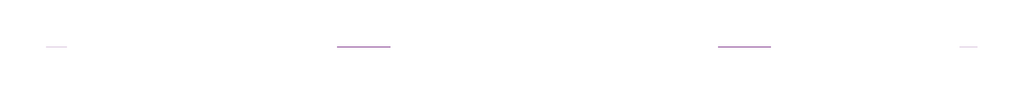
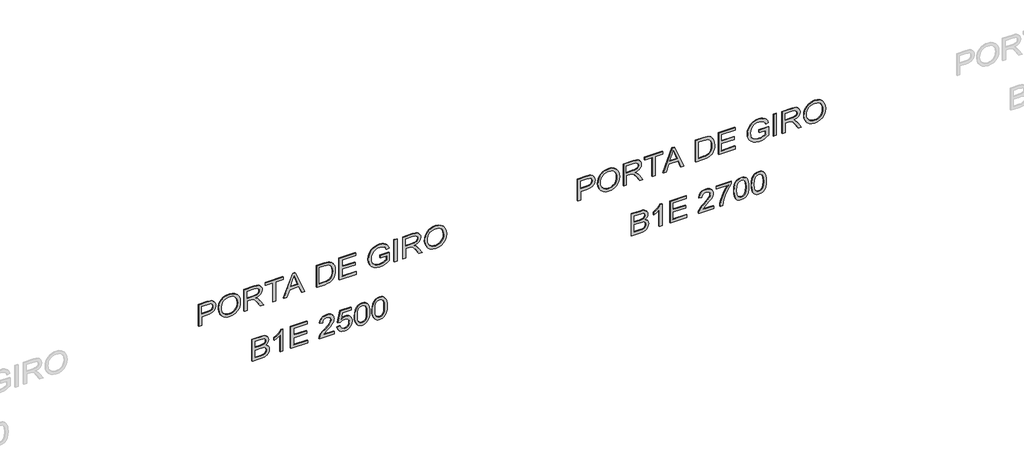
# One storey, part 2 of 13: 2 proxies.
"""IFC4 building model written with IfcOpenShell, lengths in millimetres."""

from ifc_helpers import new_model, si_unit, frame, origin, place, context, project, spatial, polyline, outline, extrude, element, save

model = new_model("IFC4")

# Units and contexts
model_context = context("Model", 3, world=origin())
ifc_project = project(units=[si_unit("LENGTHUNIT", "METRE", prefix="MILLI")], contexts=[model_context])

# Site, building, storey
site = spatial("IfcSite", under=ifc_project)
building = spatial("IfcBuilding", under=site)
storey = spatial("IfcBuildingStorey", under=building, Name="02 - Marelli - Planta Baixa - Portas", Elevation=-12000.0)

# Proxies
placement = place(None, origin())
element("IfcBuildingElementProxy", 1, Name="300mm Arial", ObjectType="300mm Arial", at=placement, inside=storey, context=model_context, shape_type="SweptSolid", body=[
    extrude(outline(polyline([(-6049.0625952, 2248.0968395), (-6049.0625952, 2285.7679558), (-5926.6314672, 2285.7679558), (-5926.6314672, 2362.3609872), (-5924.9668012, 2391.5593213), (-5919.9728031, 2415.8786204), (-5911.6494729, 2435.3188846), (-5899.9968107, 2449.8801138), (-5885.93912, 2460.4866116), (-5870.4007042, 2468.0626814), (-5853.3815634, 2472.6083233), (-5834.8816976, 2474.1235373), (-5813.4249802, 2471.8794571), (-5793.7892787, 2465.1472166), (-5777.1426184, 2454.7269591), (-5764.6530247, 2441.4188279), (-5755.9250244, 2424.8917293), (-5750.5631443, 2404.8145694), (-5747.6936647, 2359.7858132), (-5747.6936647, 2248.0968395), (-6049.0625952, 2248.0968395)]), holes=[polyline([(-5888.9603509, 2285.7679558), (-5785.364781, 2285.7679558), (-5785.364781, 2363.6853623), (-5787.939955, 2401.3564786), (-5794.2675253, 2415.5843148), (-5805.0096796, 2426.7771245), (-5819.283501, 2434.0335969), (-5836.2060728, 2436.452421), (-5858.4813276, 2432.3505367), (-5875.1279879, 2420.044884), (-5885.5022601, 2397.9719643), (-5888.9603509, 2364.5682791), (-5888.9603509, 2285.7679558)])]), frame((0.0, 8778.3159498, 0.0), z_axis=(0.0, 1.0, 0.0), x_axis=(0.0, 0.0, 1.0)), (0.0, 0.0, 1.0), 10.0),
    extrude(outline(polyline([(-5902.3512555, 2511.7946536), (-5940.8960916, 2516.0988729), (-5977.3623943, 2529.011531), (-6009.0554282, 2550.2751103), (-6033.2804576, 2579.6320935), (-6048.6487279, 2615.2798588), (-6053.7714847, 2655.4157845), (-6049.1361716, 2693.2248566), (-6035.2302322, 2728.3667842), (-6012.3111839, 2758.3307727), (-5980.6365441, 2780.6060275), (-5942.1744815, 2794.4291934), (-5898.8931648, 2799.0369154), (-5856.1820651, 2794.6591197), (-5818.2534314, 2781.5257325), (-5786.6339739, 2760.0414239), (-5762.8504029, 2730.6108643), (-5747.9511821, 2695.1654341), (-5742.9847752, 2655.6365137), (-5745.628927, 2625.3460299), (-5753.5613826, 2597.971011), (-5766.7821418, 2573.5114568), (-5785.2912046, 2551.9673675), (-5808.4723689, 2534.3918051), (-5835.7094321, 2521.8378321), (-5867.0023943, 2514.3054482), (-5902.3512555, 2511.7946536)]), holes=[polyline([(-5902.7191375, 2549.4657699), (-5872.1826326, 2551.4293401), (-5846.3504188, 2557.3200505), (-5825.222496, 2567.1379012), (-5808.7988641, 2580.8828923), (-5796.4863136, 2597.3502101), (-5787.6916347, 2615.3350411), (-5782.4148273, 2634.8373854), (-5780.6558915, 2655.8572429), (-5784.3071203, 2685.0210881), (-5795.2608067, 2711.1499068), (-5812.8547631, 2732.8089592), (-5836.426802, 2748.5635057), (-5865.2503563, 2758.1652258), (-5898.5988592, 2761.3657991), (-5925.1369466, 2759.4964987), (-5948.4652636, 2753.8885976), (-5968.5838102, 2744.5420956), (-5985.4925864, 2731.4569929), (-5998.883491, 2715.4748195), (-6008.4484229, 2697.4371054), (-6014.187382, 2677.3438507), (-6016.1003684, 2655.1950553), (-6014.2057761, 2633.4187405), (-6008.5219993, 2613.5600105), (-5999.0490379, 2595.6188655), (-5985.786892, 2579.5953053), (-5969.2276037, 2566.4136336), (-5949.8632152, 2556.9981538), (-5927.6937264, 2551.3488659), (-5902.7191375, 2549.4657699)])]), frame((0.0, 8778.3159498, 0.0), z_axis=(0.0, 1.0, 0.0), x_axis=(0.0, 0.0, 1.0)), (0.0, 0.0, 1.0), 10.0),
    extrude(outline(polyline([(-6049.0625952, 2850.8347003), (-6049.0625952, 2888.5058167), (-5917.2136881, 2888.5058167), (-5917.2136881, 2933.9760313), (-5918.5380633, 2955.8282218), (-5925.7117622, 2973.7440749), (-5945.2462961, 2993.6464909), (-5986.5962324, 3021.9734045), (-6049.0625952, 3061.1896252), (-6049.0625952, 3104.9675826), (-5967.3927923, 3054.7149021), (-5928.61803, 3024.1806965), (-5912.5047986, 3002.7699644), (-5902.5168024, 3039.8800606), (-5894.5015734, 3054.2619474), (-5884.4721905, 3065.8617265), (-5859.8608851, 3081.1748146), (-5830.1728081, 3086.2791773), (-5806.3064636, 3083.1981656), (-5784.5922289, 3073.9551304), (-5767.0810459, 3059.5525503), (-5755.8238568, 3040.9929037), (-5749.7262128, 3015.5998489), (-5747.6936647, 2980.6970446), (-5747.6936647, 2850.8347003), (-6049.0625952, 2850.8347003)]), holes=[polyline([(-5879.5425718, 2888.5058167), (-5785.364781, 2888.5058167), (-5785.364781, 2982.3157254), (-5788.6205367, 3012.1233641), (-5798.3878037, 3032.6787706), (-5813.195054, 3044.6257384), (-5831.5707596, 3048.608061), (-5844.8788908, 3046.5203306), (-5857.1385583, 3040.2571397), (-5867.2737073, 3029.9748379), (-5874.2082829, 3015.8297752), (-5878.2089996, 2997.0402023), (-5879.5425718, 2972.82437), (-5879.5425718, 2888.5058167)])]), frame((0.0, 8778.3159498, 0.0), z_axis=(0.0, 1.0, 0.0), x_axis=(0.0, 0.0, 1.0)), (0.0, 0.0, 1.0), 10.0),
    extrude(outline(polyline([(-6049.0625952, 3227.5458634), (-6049.0625952, 3265.2169797), (-5785.364781, 3265.2169797), (-5785.364781, 3364.10366), (-5747.6936647, 3364.10366), (-5747.6936647, 3128.6591831), (-5785.364781, 3128.6591831), (-5785.364781, 3227.5458634), (-6049.0625952, 3227.5458634)])), frame((0.0, 8778.3159498, 0.0), z_axis=(0.0, 1.0, 0.0), x_axis=(0.0, 0.0, 1.0)), (0.0, 0.0, 1.0), 10.0),
    extrude(outline(polyline([(-6049.0625952, 3371.3877235), (-6049.0625952, 3411.1925554), (-5954.8848044, 3445.6263102), (-5954.8848044, 3569.7496953), (-6049.0625952, 3604.2570265), (-6049.0625952, 3644.0618583), (-5747.6936647, 3523.7644459), (-5747.6936647, 3491.6851359), (-6049.0625952, 3371.3877235)]), holes=[polyline([(-5917.2136881, 3459.4586732), (-5836.6475312, 3488.9628092), (-5785.364781, 3507.7247909), (-5843.1222543, 3528.8412175), (-5917.2136881, 3555.9909087), (-5917.2136881, 3459.4586732)])]), frame((0.0, 8778.3159498, 0.0), z_axis=(0.0, 1.0, 0.0), x_axis=(0.0, 0.0, 1.0)), (0.0, 0.0, 1.0), 10.0),
    extrude(outline(polyline([(-6049.0625952, 3802.0303871), (-6049.0625952, 3910.9970341), (-6043.9122473, 3959.4470928), (-6037.5570858, 3978.9908238), (-6028.7922972, 3995.4627401), (-6016.9740882, 4009.810138), (-6001.458665, 4022.9803134), (-5981.8045694, 4034.4214434), (-5957.570343, 4043.5817051), (-5929.1054736, 4049.5965757), (-5896.7594492, 4051.6015326), (-5858.6836627, 4048.6400825), (-5825.0960365, 4039.7557324), (-5796.5483937, 4024.9116939), (-5773.5925572, 4004.0711788), (-5760.4039877, 3983.8008809), (-5752.0346723, 3959.7781866), (-5747.6936647, 3905.9938389), (-5747.6936647, 3802.0303871), (-6049.0625952, 3802.0303871)]), holes=[polyline([(-6011.3914789, 3839.7015034), (-5785.364781, 3839.7015034), (-5785.364781, 3905.3316513), (-5786.8730972, 3937.0798675), (-5791.3980458, 3958.748117), (-5803.97961, 3980.0392875), (-5824.8017309, 3997.8539731), (-5855.1152073, 4009.9113055), (-5896.170838, 4013.9304163), (-5927.155699, 4011.8794742), (-5953.155759, 4005.7266478), (-5974.2629885, 3995.8950015), (-5990.5693579, 3982.8075995), (-5999.3801317, 3970.6307055), (-6005.9468253, 3954.8485679), (-6010.0303155, 3933.9344764), (-6011.3914789, 3906.3617209), (-6011.3914789, 3839.7015034)])]), frame((0.0, 8778.3159498, 0.0), z_axis=(0.0, 1.0, 0.0), x_axis=(0.0, 0.0, 1.0)), (0.0, 0.0, 1.0), 10.0),
    extrude(outline(polyline([(-6049.0625952, 4103.3993175), (-6049.0625952, 4324.7171258), (-6011.3914789, 4324.7171258), (-6011.3914789, 4141.0704338), (-5912.5047986, 4141.0704338), (-5912.5047986, 4310.5904572), (-5874.8336823, 4310.5904572), (-5874.8336823, 4141.0704338), (-5785.364781, 4141.0704338), (-5785.364781, 4320.0082363), (-5747.6936647, 4320.0082363), (-5747.6936647, 4103.3993175), (-6049.0625952, 4103.3993175)])), frame((0.0, 8778.3159498, 0.0), z_axis=(0.0, 1.0, 0.0), x_axis=(0.0, 0.0, 1.0)), (0.0, 0.0, 1.0), 10.0),
    extrude(outline(polyline([(-5931.3403567, 4640.2127249), (-5931.3403567, 4724.9727366), (-5985.786892, 4724.9727366), (-5996.4278787, 4708.9238845), (-6006.4250719, 4686.8233737), (-6013.6815443, 4661.3751367), (-6016.1003684, 4635.2831062), (-6012.890598, 4605.7329849), (-6003.2612868, 4577.8567267), (-5987.0192967, 4554.0363675), (-5963.9714897, 4536.6539432), (-5934.3293979, 4526.0313506), (-5898.3045536, 4522.4904864), (-5867.586407, 4525.4335424), (-5839.1491287, 4534.2627103), (-5810.1232393, 4553.6500914), (-5798.1854686, 4568.0894597), (-5788.7860836, 4586.4651654), (-5782.6884395, 4608.694435), (-5780.6558915, 4634.694495), (-5782.5412867, 4656.9053704), (-5788.1974724, 4677.0377126), (-5796.9898521, 4693.9234962), (-5808.2838293, 4706.3946958), (-5823.2658236, 4715.8216719), (-5843.1222543, 4723.574785), (-5833.3365932, 4758.3028453), (-5805.4971232, 4748.7103223), (-5783.4885829, 4735.5309498), (-5766.4924347, 4717.7162642), (-5753.6901413, 4694.2178018), (-5745.6611167, 4666.3139524), (-5742.9847752, 4635.2831062), (-5747.6016942, 4593.0134649), (-5761.4524514, 4555.967748), (-5784.803761, 4525.553104), (-5817.9223376, 4503.1766817), (-5857.4052727, 4489.408698), (-5899.8496579, 4484.8193701), (-5941.9905405, 4489.4270921), (-5979.9743565, 4503.2502581), (-6011.6397992, 4526.1141241), (-6034.825562, 4557.8439462), (-6049.035004, 4596.0392943), (-6053.7714847, 4638.2997385), (-6050.7916406, 4670.6457629), (-6041.8521081, 4702.2008411), (-6027.0080696, 4732.8913965), (-6006.3147073, 4762.6438529), (-5893.6692404, 4762.6438529), (-5893.6692404, 4640.2127249), (-5931.3403567, 4640.2127249)])), frame((0.0, 8778.3159498, 0.0), z_axis=(0.0, 1.0, 0.0), x_axis=(0.0, 0.0, 1.0)), (0.0, 0.0, 1.0), 10.0),
    extrude(outline(polyline([(4866.2394227, 8778.3159498), (4828.5683064, 8778.3159498), (4828.5683064, 8788.3159498), (4866.2394227, 8788.3159498), (4866.2394227, 8778.3159498)])), frame((0.0, 0.0, -6049.0625952), z_axis=(0.0, 0.0, 1.0), x_axis=(1.0, 0.0, 0.0)), (0.0, 0.0, 1.0), 301.3689304),
    extrude(outline(polyline([(-6049.0625952, 4941.5816553), (-6049.0625952, 4979.2527716), (-5917.2136881, 4979.2527716), (-5917.2136881, 5024.7229862), (-5918.5380633, 5046.5751768), (-5925.7117622, 5064.4910299), (-5945.2462961, 5084.3934459), (-5986.5962324, 5112.7203595), (-6049.0625952, 5151.9365802), (-6049.0625952, 5195.7145376), (-5967.3927923, 5145.4618571), (-5928.61803, 5114.9276515), (-5912.5047986, 5093.5169193), (-5902.5168024, 5130.6270156), (-5894.5015734, 5145.0089024), (-5884.4721905, 5156.6086815), (-5859.8608851, 5171.9217696), (-5830.1728081, 5177.0261323), (-5806.3064636, 5173.9451205), (-5784.5922289, 5164.7020854), (-5767.0810459, 5150.2995053), (-5755.8238568, 5131.7398586), (-5749.7262128, 5106.3468039), (-5747.6936647, 5071.4439996), (-5747.6936647, 4941.5816553), (-6049.0625952, 4941.5816553)]), holes=[polyline([(-5879.5425718, 4979.2527716), (-5785.364781, 4979.2527716), (-5785.364781, 5073.0626804), (-5788.6205367, 5102.8703191), (-5798.3878037, 5123.4257256), (-5813.195054, 5135.3726933), (-5831.5707596, 5139.3550159), (-5844.8788908, 5137.2672856), (-5857.1385583, 5131.0040947), (-5867.2737073, 5120.7217929), (-5874.2082829, 5106.5767302), (-5878.2089996, 5087.7871573), (-5879.5425718, 5063.5713249), (-5879.5425718, 4979.2527716)])]), frame((0.0, 8778.3159498, 0.0), z_axis=(0.0, 1.0, 0.0), x_axis=(0.0, 0.0, 1.0)), (0.0, 0.0, 1.0), 10.0),
    extrude(outline(polyline([(-5902.3512555, 5228.8239172), (-5940.8960916, 5233.1281365), (-5977.3623943, 5246.0407945), (-6009.0554282, 5267.3043739), (-6033.2804576, 5296.6613571), (-6048.6487279, 5332.3091224), (-6053.7714847, 5372.4450481), (-6049.1361716, 5410.2541201), (-6035.2302322, 5445.3960477), (-6012.3111839, 5475.3600362), (-5980.6365441, 5497.635291), (-5942.1744815, 5511.458457), (-5898.8931648, 5516.066179), (-5856.1820651, 5511.6883833), (-5818.2534314, 5498.554996), (-5786.6339739, 5477.0706875), (-5762.8504029, 5447.6401279), (-5747.9511821, 5412.1946977), (-5742.9847752, 5372.6657773), (-5745.628927, 5342.3752935), (-5753.5613826, 5315.0002745), (-5766.7821418, 5290.5407204), (-5785.2912046, 5268.996631), (-5808.4723689, 5251.4210687), (-5835.7094321, 5238.8670956), (-5867.0023943, 5231.3347118), (-5902.3512555, 5228.8239172)]), holes=[polyline([(-5902.7191375, 5266.4950335), (-5872.1826326, 5268.4586036), (-5846.3504188, 5274.3493141), (-5825.222496, 5284.1671648), (-5808.7988641, 5297.9121559), (-5796.4863136, 5314.3794737), (-5787.6916347, 5332.3643047), (-5782.4148273, 5351.866649), (-5780.6558915, 5372.8865065), (-5784.3071203, 5402.0503517), (-5795.2608067, 5428.1791704), (-5812.8547631, 5449.8382228), (-5836.426802, 5465.5927693), (-5865.2503563, 5475.1944893), (-5898.5988592, 5478.3950627), (-5925.1369466, 5476.5257623), (-5948.4652636, 5470.9178611), (-5968.5838102, 5461.5713592), (-5985.4925864, 5448.4862565), (-5998.883491, 5432.5040831), (-6008.4484229, 5414.466369), (-6014.187382, 5394.3731143), (-6016.1003684, 5372.2243189), (-6014.2057761, 5350.448004), (-6008.5219993, 5330.5892741), (-5999.0490379, 5312.648129), (-5985.786892, 5296.6245689), (-5969.2276037, 5283.4428971), (-5949.8632152, 5274.0274173), (-5927.6937264, 5268.3781294), (-5902.7191375, 5266.4950335)])]), frame((0.0, 8778.3159498, 0.0), z_axis=(0.0, 1.0, 0.0), x_axis=(0.0, 0.0, 1.0)), (0.0, 0.0, 1.0), 10.0),
    extrude(outline(polyline([(-6780.9115023, 2954.4302702), (-6780.9115023, 3068.5472651), (-6775.7243661, 3116.8501711), (-6769.3048253, 3134.8855859), (-6760.4204751, 3149.6284568), (-6748.1516106, 3161.6673951), (-6731.5785267, 3171.5910119), (-6712.089978, 3178.240479), (-6691.074719, 3180.456968), (-6665.8564083, 3177.2104094), (-6644.2065528, 3167.4707336), (-6627.2471929, 3151.6977931), (-6616.1003684, 3130.3514403), (-6604.3557357, 3148.2213082), (-6589.4289238, 3160.9224341), (-6572.3683962, 3168.5100002), (-6554.2226168, 3171.039189), (-6534.5041419, 3168.0317536), (-6515.6685837, 3159.0094477), (-6499.6565199, 3144.680444), (-6488.4085279, 3125.7529153), (-6481.7590608, 3101.0588364), (-6479.5425718, 3069.4301819), (-6479.5425718, 2954.4302702), (-6780.9115023, 2954.4302702)]), holes=[polyline([(-6743.2403859, 2992.1013865), (-6639.6448161, 2992.1013865), (-6639.6448161, 3065.6777855), (-6640.9048119, 3092.50558), (-6644.6847994, 3112.2148579), (-6651.5733898, 3126.1299944), (-6662.1591942, 3135.5753646), (-6675.6972516, 3140.9832299), (-6691.442601, 3142.7858517), (-6704.9990525, 3141.2499444), (-6716.8264587, 3136.6422224), (-6733.5650895, 3120.9704494), (-6741.768858, 3097.3156371), (-6743.2403859, 3069.3566055), (-6743.2403859, 2992.1013865)]), polyline([(-6601.9736998, 2992.1013865), (-6517.2136881, 2992.1013865), (-6517.2136881, 3055.6713953), (-6521.1500255, 3104.0846658), (-6526.7510288, 3116.5742596), (-6535.6813643, 3125.7897035), (-6547.1224943, 3131.4734804), (-6560.2558815, 3133.3680726), (-6573.7847419, 3131.3355246), (-6584.7936106, 3125.2378806), (-6593.153729, 3115.1303227), (-6598.7363382, 3101.0680335), (-6601.9736998, 3060.8953196), (-6601.9736998, 2992.1013865)])]), frame((0.0, 8778.3159498, 0.0), z_axis=(0.0, 1.0, 0.0), x_axis=(0.0, 0.0, 1.0)), (0.0, 0.0, 1.0), 10.0),
    extrude(outline(polyline([(-6780.9115023, 3359.3947705), (-6479.5425718, 3359.3947705), (-6479.5425718, 3335.1145588), (-6499.2794408, 3321.8064276), (-6519.6417093, 3301.600509), (-6538.7899671, 3275.968331), (-6554.8848044, 3246.3814216), (-6590.4957816, 3246.3814216), (-6571.4762824, 3286.0391006), (-6546.0556365, 3321.7236542), (-6780.9115023, 3321.7236542), (-6780.9115023, 3359.3947705)])), frame((0.0, 8778.3159498, 0.0), z_axis=(0.0, 1.0, 0.0), x_axis=(0.0, 0.0, 1.0)), (0.0, 0.0, 1.0), 10.0),
    extrude(outline(polyline([(-6780.9115023, 3462.9903403), (-6780.9115023, 3684.3081486), (-6743.2403859, 3684.3081486), (-6743.2403859, 3500.6614566), (-6644.3537056, 3500.6614566), (-6644.3537056, 3670.18148), (-6606.6825893, 3670.18148), (-6606.6825893, 3500.6614566), (-6517.2136881, 3500.6614566), (-6517.2136881, 3679.5992591), (-6479.5425718, 3679.5992591), (-6479.5425718, 3462.9903403), (-6780.9115023, 3462.9903403)])), frame((0.0, 8778.3159498, 0.0), z_axis=(0.0, 1.0, 0.0), x_axis=(0.0, 0.0, 1.0)), (0.0, 0.0, 1.0), 10.0),
    extrude(outline(polyline([(-6743.2403859, 4037.474864), (-6743.2403859, 3889.5127255), (-6724.073734, 3906.5088737), (-6687.8373575, 3949.8453727), (-6658.8206651, 3982.5408851), (-6636.2235136, 4003.8136614), (-6617.2959849, 4017.1585808), (-6599.2881612, 4026.0705221), (-6581.5838402, 4031.0921114), (-6563.5668195, 4032.7659745), (-6546.4143215, 4031.2139723), (-6530.7149573, 4026.5579658), (-6516.4687271, 4018.7979549), (-6503.6756307, 4007.9339398), (-6493.1174174, 3994.4073787), (-6485.5758365, 3978.65973), (-6481.050888, 3960.6909938), (-6479.5425718, 3940.5011701), (-6484.9688312, 3902.6185216), (-6491.7516555, 3886.8846685), (-6501.2476095, 3873.2891295), (-6513.3279345, 3862.0894221), (-6527.8638719, 3853.5430635), (-6564.3025835, 3844.4103929), (-6569.011473, 3882.0815092), (-6547.3616176, 3886.1558023), (-6530.9724747, 3897.9372232), (-6520.6533848, 3916.1933672), (-6517.2136881, 3939.6918297), (-6520.7361582, 3962.068252), (-6531.3035685, 3979.7541789), (-6546.9845386, 3991.2596883), (-6565.8476879, 3995.0948581), (-6586.890538, 3991.0297621), (-6608.5219993, 3978.834474), (-6635.1750499, 3954.4438977), (-6671.2826677, 3913.7929372), (-6694.3396717, 3886.2937581), (-6714.9502605, 3866.6304654), (-6734.6411443, 3853.0372257), (-6754.9390334, 3843.7482053), (-6780.9115023, 3839.7015034), (-6780.9115023, 4037.474864), (-6743.2403859, 4037.474864)])), frame((0.0, 8778.3159498, 0.0), z_axis=(0.0, 1.0, 0.0), x_axis=(0.0, 0.0, 1.0)), (0.0, 0.0, 1.0), 10.0),
    extrude(outline(polyline([(-6700.8603801, 4075.1459803), (-6735.4136965, 4084.3338331), (-6749.8553641, 4093.0595342), (-6762.4070379, 4104.5397517), (-6772.5628802, 4118.3376258), (-6779.8170533, 4134.0162966), (-6785.6203918, 4171.0160282), (-6783.362516, 4194.5052936), (-6776.5888888, 4215.3825969), (-6765.2995101, 4233.6479379), (-6749.4943799, 4249.3013168), (-6734.0617302, 4259.6342024), (-6717.2679171, 4267.0148349), (-6679.5968008, 4272.9193409), (-6659.3356999, 4271.2799668), (-6641.0059795, 4266.3618443), (-6624.6076396, 4258.1649736), (-6610.1406801, 4246.6893546), (-6598.3270695, 4232.8271012), (-6589.8887763, 4217.4703272), (-6584.8258003, 4200.6190325), (-6583.1381416, 4182.2732173), (-6588.5827952, 4154.0750624), (-6604.9167558, 4127.1644944), (-6521.9225776, 4143.2777258), (-6521.9225776, 4258.7926723), (-6484.2514613, 4258.7926723), (-6484.2514613, 4112.8170966), (-6639.6448161, 4079.8548698), (-6644.3537056, 4117.5259861), (-6627.3575575, 4138.6792009), (-6622.4463328, 4153.4772541), (-6620.809258, 4171.7517922), (-6624.9111422, 4199.6464445), (-6637.2167949, 4219.466087), (-6656.6041761, 4231.3026902), (-6681.9512456, 4235.2482246), (-6708.8710105, 4231.0359758), (-6729.8862695, 4218.3992292), (-6743.433524, 4198.1657195), (-6747.9492755, 4171.163181), (-6744.7027169, 4148.9615026), (-6734.9630411, 4131.7998076), (-6718.7670362, 4119.7332781), (-6696.1514906, 4112.8170966), (-6700.8603801, 4075.1459803)])), frame((0.0, 8778.3159498, 0.0), z_axis=(0.0, 1.0, 0.0), x_axis=(0.0, 0.0, 1.0)), (0.0, 0.0, 1.0), 10.0),
    extrude(outline(polyline([(-6632.6550582, 4305.8815677), (-6672.0966066, 4307.7577658), (-6705.9555457, 4313.3863604), (-6734.2318756, 4322.7673513), (-6756.9255962, 4335.9007385), (-6769.4795693, 4349.5859487), (-6778.4466929, 4365.6256037), (-6783.8269671, 4384.0197034), (-6785.6203918, 4404.768248), (-6781.4909164, 4435.2196801), (-6769.1024902, 4459.9137591), (-6748.3171575, 4479.0160317), (-6718.9969625, 4492.6920448), (-6680.6176733, 4500.9142074), (-6632.6550582, 4503.6549283), (-6592.6938765, 4501.944277), (-6561.8377741, 4496.8123232), (-6537.5391683, 4488.9764367), (-6517.2504763, 4479.1539874), (-6501.1096538, 4466.1493589), (-6489.2546565, 4448.7669346), (-6481.970593, 4427.9816019), (-6479.5425718, 4404.768248), (-6483.6444561, 4374.4823627), (-6495.9501088, 4349.8434661), (-6516.6526681, 4330.7136023), (-6545.9452719, 4316.9548157), (-6584.4165316, 4308.6498797), (-6632.6550582, 4305.8815677)]), holes=[polyline([(-6632.5814818, 4343.552684), (-6574.0882446, 4348.1144207), (-6553.0086062, 4353.8165916), (-6537.3736214, 4361.7996309), (-6522.2536714, 4380.7455537), (-6517.2136881, 4404.3267896), (-6522.9342531, 4429.2324007), (-6540.0959482, 4448.9140874), (-6554.4571416, 4456.3820919), (-6574.6584617, 4461.7163808), (-6632.5814818, 4465.983812), (-6691.7461037, 4461.569228), (-6712.0095038, 4456.0509981), (-6726.0602968, 4448.3254762), (-6742.4770308, 4428.6070013), (-6747.9492755, 4404.768248), (-6742.4954249, 4380.9294947), (-6726.1338732, 4361.2110197), (-6712.1060728, 4353.4854978), (-6691.8380742, 4347.9672679), (-6632.5814818, 4343.552684)])]), frame((0.0, 8778.3159498, 0.0), z_axis=(0.0, 1.0, 0.0), x_axis=(0.0, 0.0, 1.0)), (0.0, 0.0, 1.0), 10.0),
    extrude(outline(polyline([(-6632.6550582, 4536.617155), (-6672.0966066, 4538.4933532), (-6705.9555457, 4544.1219477), (-6734.2318756, 4553.5029386), (-6756.9255962, 4566.6363259), (-6769.4795693, 4580.3215361), (-6778.4466929, 4596.3611911), (-6783.8269671, 4614.7552908), (-6785.6203918, 4635.5038354), (-6781.4909164, 4665.9552675), (-6769.1024902, 4690.6493464), (-6748.3171575, 4709.751619), (-6718.9969625, 4723.4276322), (-6680.6176733, 4731.6497948), (-6632.6550582, 4734.3905157), (-6592.6938765, 4732.6798644), (-6561.8377741, 4727.5479105), (-6537.5391683, 4719.712024), (-6517.2504763, 4709.8895748), (-6501.1096538, 4696.8849462), (-6489.2546565, 4679.502522), (-6481.970593, 4658.7171892), (-6479.5425718, 4635.5038354), (-6483.6444561, 4605.2179501), (-6495.9501088, 4580.5790535), (-6516.6526681, 4561.4491897), (-6545.9452719, 4547.6904031), (-6584.4165316, 4539.3854671), (-6632.6550582, 4536.617155)]), holes=[polyline([(-6632.5814818, 4574.2882714), (-6574.0882446, 4578.8500081), (-6553.0086062, 4584.552179), (-6537.3736214, 4592.5352183), (-6522.2536714, 4611.4811411), (-6517.2136881, 4635.062377), (-6522.9342531, 4659.967988), (-6540.0959482, 4679.6496748), (-6554.4571416, 4687.1176793), (-6574.6584617, 4692.4519682), (-6632.5814818, 4696.7193993), (-6691.7461037, 4692.3048154), (-6712.0095038, 4686.7865855), (-6726.0602968, 4679.0610636), (-6742.4770308, 4659.3425886), (-6747.9492755, 4635.5038354), (-6742.4954249, 4611.6650821), (-6726.1338732, 4591.9466071), (-6712.1060728, 4584.2210852), (-6691.8380742, 4578.7028553), (-6632.5814818, 4574.2882714)])]), frame((0.0, 8778.3159498, 0.0), z_axis=(0.0, 1.0, 0.0), x_axis=(0.0, 0.0, 1.0)), (0.0, 0.0, 1.0), 10.0),
])
element("IfcBuildingElementProxy", 2, Name="300mm Arial", ObjectType="300mm Arial", at=placement, inside=storey, context=model_context, shape_type="SweptSolid", body=[
    extrude(outline(polyline([(-6049.0625952, 7248.0968395), (-6049.0625952, 7285.7679558), (-5926.6314672, 7285.7679558), (-5926.6314672, 7362.3609872), (-5924.9668012, 7391.5593213), (-5919.9728031, 7415.8786204), (-5911.6494729, 7435.3188846), (-5899.9968107, 7449.8801138), (-5885.93912, 7460.4866116), (-5870.4007042, 7468.0626814), (-5853.3815634, 7472.6083233), (-5834.8816976, 7474.1235373), (-5813.4249802, 7471.8794571), (-5793.7892787, 7465.1472166), (-5777.1426184, 7454.7269591), (-5764.6530247, 7441.4188279), (-5755.9250244, 7424.8917293), (-5750.5631443, 7404.8145694), (-5747.6936647, 7359.7858132), (-5747.6936647, 7248.0968395), (-6049.0625952, 7248.0968395)]), holes=[polyline([(-5888.9603509, 7285.7679558), (-5785.364781, 7285.7679558), (-5785.364781, 7363.6853623), (-5787.939955, 7401.3564786), (-5794.2675253, 7415.5843148), (-5805.0096796, 7426.7771245), (-5819.283501, 7434.0335969), (-5836.2060728, 7436.452421), (-5858.4813276, 7432.3505367), (-5875.1279879, 7420.044884), (-5885.5022601, 7397.9719643), (-5888.9603509, 7364.5682791), (-5888.9603509, 7285.7679558)])]), frame((0.0, 8778.3159498, 0.0), z_axis=(0.0, 1.0, 0.0), x_axis=(0.0, 0.0, 1.0)), (0.0, 0.0, 1.0), 10.0),
    extrude(outline(polyline([(-5902.3512555, 7511.7946536), (-5940.8960916, 7516.0988729), (-5977.3623943, 7529.011531), (-6009.0554282, 7550.2751103), (-6033.2804576, 7579.6320935), (-6048.6487279, 7615.2798588), (-6053.7714847, 7655.4157845), (-6049.1361716, 7693.2248566), (-6035.2302322, 7728.3667842), (-6012.3111839, 7758.3307727), (-5980.6365441, 7780.6060275), (-5942.1744815, 7794.4291934), (-5898.8931648, 7799.0369154), (-5856.1820651, 7794.6591197), (-5818.2534314, 7781.5257325), (-5786.6339739, 7760.0414239), (-5762.8504029, 7730.6108643), (-5747.9511821, 7695.1654341), (-5742.9847752, 7655.6365137), (-5745.628927, 7625.3460299), (-5753.5613826, 7597.971011), (-5766.7821418, 7573.5114568), (-5785.2912046, 7551.9673675), (-5808.4723689, 7534.3918051), (-5835.7094321, 7521.8378321), (-5867.0023943, 7514.3054482), (-5902.3512555, 7511.7946536)]), holes=[polyline([(-5902.7191375, 7549.4657699), (-5872.1826326, 7551.4293401), (-5846.3504188, 7557.3200505), (-5825.222496, 7567.1379012), (-5808.7988641, 7580.8828923), (-5796.4863136, 7597.3502101), (-5787.6916347, 7615.3350411), (-5782.4148273, 7634.8373854), (-5780.6558915, 7655.8572429), (-5784.3071203, 7685.0210881), (-5795.2608067, 7711.1499068), (-5812.8547631, 7732.8089592), (-5836.426802, 7748.5635057), (-5865.2503563, 7758.1652258), (-5898.5988592, 7761.3657991), (-5925.1369466, 7759.4964987), (-5948.4652636, 7753.8885976), (-5968.5838102, 7744.5420956), (-5985.4925864, 7731.4569929), (-5998.883491, 7715.4748195), (-6008.4484229, 7697.4371054), (-6014.187382, 7677.3438507), (-6016.1003684, 7655.1950553), (-6014.2057761, 7633.4187405), (-6008.5219993, 7613.5600105), (-5999.0490379, 7595.6188655), (-5985.786892, 7579.5953053), (-5969.2276037, 7566.4136336), (-5949.8632152, 7556.9981538), (-5927.6937264, 7551.3488659), (-5902.7191375, 7549.4657699)])]), frame((0.0, 8778.3159498, 0.0), z_axis=(0.0, 1.0, 0.0), x_axis=(0.0, 0.0, 1.0)), (0.0, 0.0, 1.0), 10.0),
    extrude(outline(polyline([(-6049.0625952, 7850.8347003), (-6049.0625952, 7888.5058167), (-5917.2136881, 7888.5058167), (-5917.2136881, 7933.9760313), (-5918.5380633, 7955.8282218), (-5925.7117622, 7973.7440749), (-5945.2462961, 7993.6464909), (-5986.5962324, 8021.9734045), (-6049.0625952, 8061.1896252), (-6049.0625952, 8104.9675826), (-5967.3927923, 8054.7149021), (-5928.61803, 8024.1806965), (-5912.5047986, 8002.7699644), (-5902.5168024, 8039.8800606), (-5894.5015734, 8054.2619474), (-5884.4721905, 8065.8617265), (-5859.8608851, 8081.1748146), (-5830.1728081, 8086.2791773), (-5806.3064636, 8083.1981656), (-5784.5922289, 8073.9551304), (-5767.0810459, 8059.5525503), (-5755.8238568, 8040.9929037), (-5749.7262128, 8015.5998489), (-5747.6936647, 7980.6970446), (-5747.6936647, 7850.8347003), (-6049.0625952, 7850.8347003)]), holes=[polyline([(-5879.5425718, 7888.5058167), (-5785.364781, 7888.5058167), (-5785.364781, 7982.3157254), (-5788.6205367, 8012.1233641), (-5798.3878037, 8032.6787706), (-5813.195054, 8044.6257384), (-5831.5707596, 8048.608061), (-5844.8788908, 8046.5203306), (-5857.1385583, 8040.2571397), (-5867.2737073, 8029.9748379), (-5874.2082829, 8015.8297752), (-5878.2089996, 7997.0402023), (-5879.5425718, 7972.82437), (-5879.5425718, 7888.5058167)])]), frame((0.0, 8778.3159498, 0.0), z_axis=(0.0, 1.0, 0.0), x_axis=(0.0, 0.0, 1.0)), (0.0, 0.0, 1.0), 10.0),
    extrude(outline(polyline([(-6049.0625952, 8227.5458634), (-6049.0625952, 8265.2169797), (-5785.364781, 8265.2169797), (-5785.364781, 8364.10366), (-5747.6936647, 8364.10366), (-5747.6936647, 8128.6591831), (-5785.364781, 8128.6591831), (-5785.364781, 8227.5458634), (-6049.0625952, 8227.5458634)])), frame((0.0, 8778.3159498, 0.0), z_axis=(0.0, 1.0, 0.0), x_axis=(0.0, 0.0, 1.0)), (0.0, 0.0, 1.0), 10.0),
    extrude(outline(polyline([(-6049.0625952, 8371.3877235), (-6049.0625952, 8411.1925554), (-5954.8848044, 8445.6263102), (-5954.8848044, 8569.7496953), (-6049.0625952, 8604.2570265), (-6049.0625952, 8644.0618583), (-5747.6936647, 8523.7644459), (-5747.6936647, 8491.6851359), (-6049.0625952, 8371.3877235)]), holes=[polyline([(-5917.2136881, 8459.4586732), (-5836.6475312, 8488.9628092), (-5785.364781, 8507.7247909), (-5843.1222543, 8528.8412175), (-5917.2136881, 8555.9909087), (-5917.2136881, 8459.4586732)])]), frame((0.0, 8778.3159498, 0.0), z_axis=(0.0, 1.0, 0.0), x_axis=(0.0, 0.0, 1.0)), (0.0, 0.0, 1.0), 10.0),
    extrude(outline(polyline([(-6049.0625952, 8802.0303871), (-6049.0625952, 8910.9970341), (-6043.9122473, 8959.4470928), (-6037.5570858, 8978.9908238), (-6028.7922972, 8995.4627401), (-6016.9740882, 9009.810138), (-6001.458665, 9022.9803134), (-5981.8045694, 9034.4214434), (-5957.570343, 9043.5817051), (-5929.1054736, 9049.5965757), (-5896.7594492, 9051.6015326), (-5858.6836627, 9048.6400825), (-5825.0960365, 9039.7557324), (-5796.5483937, 9024.9116939), (-5773.5925572, 9004.0711788), (-5760.4039877, 8983.8008809), (-5752.0346723, 8959.7781866), (-5747.6936647, 8905.9938389), (-5747.6936647, 8802.0303871), (-6049.0625952, 8802.0303871)]), holes=[polyline([(-6011.3914789, 8839.7015034), (-5785.364781, 8839.7015034), (-5785.364781, 8905.3316513), (-5786.8730972, 8937.0798675), (-5791.3980458, 8958.748117), (-5803.97961, 8980.0392875), (-5824.8017309, 8997.8539731), (-5855.1152073, 9009.9113055), (-5896.170838, 9013.9304163), (-5927.155699, 9011.8794742), (-5953.155759, 9005.7266478), (-5974.2629885, 8995.8950015), (-5990.5693579, 8982.8075995), (-5999.3801317, 8970.6307055), (-6005.9468253, 8954.8485679), (-6010.0303155, 8933.9344764), (-6011.3914789, 8906.3617209), (-6011.3914789, 8839.7015034)])]), frame((0.0, 8778.3159498, 0.0), z_axis=(0.0, 1.0, 0.0), x_axis=(0.0, 0.0, 1.0)), (0.0, 0.0, 1.0), 10.0),
    extrude(outline(polyline([(-6049.0625952, 9103.3993175), (-6049.0625952, 9324.7171258), (-6011.3914789, 9324.7171258), (-6011.3914789, 9141.0704338), (-5912.5047986, 9141.0704338), (-5912.5047986, 9310.5904572), (-5874.8336823, 9310.5904572), (-5874.8336823, 9141.0704338), (-5785.364781, 9141.0704338), (-5785.364781, 9320.0082363), (-5747.6936647, 9320.0082363), (-5747.6936647, 9103.3993175), (-6049.0625952, 9103.3993175)])), frame((0.0, 8778.3159498, 0.0), z_axis=(0.0, 1.0, 0.0), x_axis=(0.0, 0.0, 1.0)), (0.0, 0.0, 1.0), 10.0),
    extrude(outline(polyline([(-5931.3403567, 9640.2127249), (-5931.3403567, 9724.9727366), (-5985.786892, 9724.9727366), (-5996.4278787, 9708.9238845), (-6006.4250719, 9686.8233737), (-6013.6815443, 9661.3751367), (-6016.1003684, 9635.2831062), (-6012.890598, 9605.7329849), (-6003.2612868, 9577.8567267), (-5987.0192967, 9554.0363675), (-5963.9714897, 9536.6539432), (-5934.3293979, 9526.0313506), (-5898.3045536, 9522.4904864), (-5867.586407, 9525.4335424), (-5839.1491287, 9534.2627103), (-5810.1232393, 9553.6500914), (-5798.1854686, 9568.0894597), (-5788.7860836, 9586.4651654), (-5782.6884395, 9608.694435), (-5780.6558915, 9634.694495), (-5782.5412867, 9656.9053704), (-5788.1974724, 9677.0377126), (-5796.9898521, 9693.9234962), (-5808.2838293, 9706.3946958), (-5823.2658236, 9715.8216719), (-5843.1222543, 9723.574785), (-5833.3365932, 9758.3028453), (-5805.4971232, 9748.7103223), (-5783.4885829, 9735.5309498), (-5766.4924347, 9717.7162642), (-5753.6901413, 9694.2178018), (-5745.6611167, 9666.3139524), (-5742.9847752, 9635.2831062), (-5747.6016942, 9593.0134649), (-5761.4524514, 9555.967748), (-5784.803761, 9525.553104), (-5817.9223376, 9503.1766817), (-5857.4052727, 9489.408698), (-5899.8496579, 9484.8193701), (-5941.9905405, 9489.4270921), (-5979.9743565, 9503.2502581), (-6011.6397992, 9526.1141241), (-6034.825562, 9557.8439462), (-6049.035004, 9596.0392943), (-6053.7714847, 9638.2997385), (-6050.7916406, 9670.6457629), (-6041.8521081, 9702.2008411), (-6027.0080696, 9732.8913965), (-6006.3147073, 9762.6438529), (-5893.6692404, 9762.6438529), (-5893.6692404, 9640.2127249), (-5931.3403567, 9640.2127249)])), frame((0.0, 8778.3159498, 0.0), z_axis=(0.0, 1.0, 0.0), x_axis=(0.0, 0.0, 1.0)), (0.0, 0.0, 1.0), 10.0),
    extrude(outline(polyline([(9866.2394227, 8778.3159498), (9828.5683064, 8778.3159498), (9828.5683064, 8788.3159498), (9866.2394227, 8788.3159498), (9866.2394227, 8778.3159498)])), frame((0.0, 0.0, -6049.0625952), z_axis=(0.0, 0.0, 1.0), x_axis=(1.0, 0.0, 0.0)), (0.0, 0.0, 1.0), 301.3689304),
    extrude(outline(polyline([(-6049.0625952, 9941.5816553), (-6049.0625952, 9979.2527716), (-5917.2136881, 9979.2527716), (-5917.2136881, 10024.7229862), (-5918.5380633, 10046.5751768), (-5925.7117622, 10064.4910299), (-5945.2462961, 10084.3934459), (-5986.5962324, 10112.7203595), (-6049.0625952, 10151.9365802), (-6049.0625952, 10195.7145376), (-5967.3927923, 10145.4618571), (-5928.61803, 10114.9276515), (-5912.5047986, 10093.5169193), (-5902.5168024, 10130.6270156), (-5894.5015734, 10145.0089024), (-5884.4721905, 10156.6086815), (-5859.8608851, 10171.9217696), (-5830.1728081, 10177.0261323), (-5806.3064636, 10173.9451205), (-5784.5922289, 10164.7020854), (-5767.0810459, 10150.2995053), (-5755.8238568, 10131.7398586), (-5749.7262128, 10106.3468039), (-5747.6936647, 10071.4439996), (-5747.6936647, 9941.5816553), (-6049.0625952, 9941.5816553)]), holes=[polyline([(-5879.5425718, 9979.2527716), (-5785.364781, 9979.2527716), (-5785.364781, 10073.0626804), (-5788.6205367, 10102.8703191), (-5798.3878037, 10123.4257256), (-5813.195054, 10135.3726933), (-5831.5707596, 10139.3550159), (-5844.8788908, 10137.2672856), (-5857.1385583, 10131.0040947), (-5867.2737073, 10120.7217929), (-5874.2082829, 10106.5767302), (-5878.2089996, 10087.7871573), (-5879.5425718, 10063.5713249), (-5879.5425718, 9979.2527716)])]), frame((0.0, 8778.3159498, 0.0), z_axis=(0.0, 1.0, 0.0), x_axis=(0.0, 0.0, 1.0)), (0.0, 0.0, 1.0), 10.0),
    extrude(outline(polyline([(-5902.3512555, 10228.8239172), (-5940.8960916, 10233.1281365), (-5977.3623943, 10246.0407945), (-6009.0554282, 10267.3043739), (-6033.2804576, 10296.6613571), (-6048.6487279, 10332.3091224), (-6053.7714847, 10372.4450481), (-6049.1361716, 10410.2541201), (-6035.2302322, 10445.3960477), (-6012.3111839, 10475.3600362), (-5980.6365441, 10497.635291), (-5942.1744815, 10511.458457), (-5898.8931648, 10516.066179), (-5856.1820651, 10511.6883833), (-5818.2534314, 10498.554996), (-5786.6339739, 10477.0706875), (-5762.8504029, 10447.6401279), (-5747.9511821, 10412.1946977), (-5742.9847752, 10372.6657773), (-5745.628927, 10342.3752935), (-5753.5613826, 10315.0002745), (-5766.7821418, 10290.5407204), (-5785.2912046, 10268.996631), (-5808.4723689, 10251.4210687), (-5835.7094321, 10238.8670956), (-5867.0023943, 10231.3347118), (-5902.3512555, 10228.8239172)]), holes=[polyline([(-5902.7191375, 10266.4950335), (-5872.1826326, 10268.4586036), (-5846.3504188, 10274.3493141), (-5825.222496, 10284.1671648), (-5808.7988641, 10297.9121559), (-5796.4863136, 10314.3794737), (-5787.6916347, 10332.3643047), (-5782.4148273, 10351.866649), (-5780.6558915, 10372.8865065), (-5784.3071203, 10402.0503517), (-5795.2608067, 10428.1791704), (-5812.8547631, 10449.8382228), (-5836.426802, 10465.5927693), (-5865.2503563, 10475.1944893), (-5898.5988592, 10478.3950627), (-5925.1369466, 10476.5257623), (-5948.4652636, 10470.9178611), (-5968.5838102, 10461.5713592), (-5985.4925864, 10448.4862565), (-5998.883491, 10432.5040831), (-6008.4484229, 10414.466369), (-6014.187382, 10394.3731143), (-6016.1003684, 10372.2243189), (-6014.2057761, 10350.448004), (-6008.5219993, 10330.5892741), (-5999.0490379, 10312.648129), (-5985.786892, 10296.6245689), (-5969.2276037, 10283.4428971), (-5949.8632152, 10274.0274173), (-5927.6937264, 10268.3781294), (-5902.7191375, 10266.4950335)])]), frame((0.0, 8778.3159498, 0.0), z_axis=(0.0, 1.0, 0.0), x_axis=(0.0, 0.0, 1.0)), (0.0, 0.0, 1.0), 10.0),
    extrude(outline(polyline([(-6780.9115023, 7954.4302702), (-6780.9115023, 8068.5472651), (-6775.7243661, 8116.8501711), (-6769.3048253, 8134.8855859), (-6760.4204751, 8149.6284568), (-6748.1516106, 8161.6673951), (-6731.5785267, 8171.5910119), (-6712.089978, 8178.240479), (-6691.074719, 8180.456968), (-6665.8564083, 8177.2104094), (-6644.2065528, 8167.4707336), (-6627.2471929, 8151.6977931), (-6616.1003684, 8130.3514403), (-6604.3557357, 8148.2213082), (-6589.4289238, 8160.9224341), (-6572.3683962, 8168.5100002), (-6554.2226168, 8171.039189), (-6534.5041419, 8168.0317536), (-6515.6685837, 8159.0094477), (-6499.6565199, 8144.680444), (-6488.4085279, 8125.7529153), (-6481.7590608, 8101.0588364), (-6479.5425718, 8069.4301819), (-6479.5425718, 7954.4302702), (-6780.9115023, 7954.4302702)]), holes=[polyline([(-6743.2403859, 7992.1013865), (-6639.6448161, 7992.1013865), (-6639.6448161, 8065.6777855), (-6640.9048119, 8092.50558), (-6644.6847994, 8112.2148579), (-6651.5733898, 8126.1299944), (-6662.1591942, 8135.5753646), (-6675.6972516, 8140.9832299), (-6691.442601, 8142.7858517), (-6704.9990525, 8141.2499444), (-6716.8264587, 8136.6422224), (-6733.5650895, 8120.9704494), (-6741.768858, 8097.3156371), (-6743.2403859, 8069.3566055), (-6743.2403859, 7992.1013865)]), polyline([(-6601.9736998, 7992.1013865), (-6517.2136881, 7992.1013865), (-6517.2136881, 8055.6713953), (-6521.1500255, 8104.0846658), (-6526.7510288, 8116.5742596), (-6535.6813643, 8125.7897035), (-6547.1224943, 8131.4734804), (-6560.2558815, 8133.3680726), (-6573.7847419, 8131.3355246), (-6584.7936106, 8125.2378806), (-6593.153729, 8115.1303227), (-6598.7363382, 8101.0680335), (-6601.9736998, 8060.8953196), (-6601.9736998, 7992.1013865)])]), frame((0.0, 8778.3159498, 0.0), z_axis=(0.0, 1.0, 0.0), x_axis=(0.0, 0.0, 1.0)), (0.0, 0.0, 1.0), 10.0),
    extrude(outline(polyline([(-6780.9115023, 8359.3947705), (-6479.5425718, 8359.3947705), (-6479.5425718, 8335.1145588), (-6499.2794408, 8321.8064276), (-6519.6417093, 8301.600509), (-6538.7899671, 8275.968331), (-6554.8848044, 8246.3814216), (-6590.4957816, 8246.3814216), (-6571.4762824, 8286.0391006), (-6546.0556365, 8321.7236542), (-6780.9115023, 8321.7236542), (-6780.9115023, 8359.3947705)])), frame((0.0, 8778.3159498, 0.0), z_axis=(0.0, 1.0, 0.0), x_axis=(0.0, 0.0, 1.0)), (0.0, 0.0, 1.0), 10.0),
    extrude(outline(polyline([(-6780.9115023, 8462.9903403), (-6780.9115023, 8684.3081486), (-6743.2403859, 8684.3081486), (-6743.2403859, 8500.6614566), (-6644.3537056, 8500.6614566), (-6644.3537056, 8670.18148), (-6606.6825893, 8670.18148), (-6606.6825893, 8500.6614566), (-6517.2136881, 8500.6614566), (-6517.2136881, 8679.5992591), (-6479.5425718, 8679.5992591), (-6479.5425718, 8462.9903403), (-6780.9115023, 8462.9903403)])), frame((0.0, 8778.3159498, 0.0), z_axis=(0.0, 1.0, 0.0), x_axis=(0.0, 0.0, 1.0)), (0.0, 0.0, 1.0), 10.0),
    extrude(outline(polyline([(-6743.2403859, 9037.474864), (-6743.2403859, 8889.5127255), (-6724.073734, 8906.5088737), (-6687.8373575, 8949.8453727), (-6658.8206651, 8982.5408851), (-6636.2235136, 9003.8136614), (-6617.2959849, 9017.1585808), (-6599.2881612, 9026.0705221), (-6581.5838402, 9031.0921114), (-6563.5668195, 9032.7659745), (-6546.4143215, 9031.2139723), (-6530.7149573, 9026.5579658), (-6516.4687271, 9018.7979549), (-6503.6756307, 9007.9339398), (-6493.1174174, 8994.4073787), (-6485.5758365, 8978.65973), (-6481.050888, 8960.6909938), (-6479.5425718, 8940.5011701), (-6484.9688312, 8902.6185216), (-6491.7516555, 8886.8846685), (-6501.2476095, 8873.2891295), (-6513.3279345, 8862.0894221), (-6527.8638719, 8853.5430635), (-6564.3025835, 8844.4103929), (-6569.011473, 8882.0815092), (-6547.3616176, 8886.1558023), (-6530.9724747, 8897.9372232), (-6520.6533848, 8916.1933672), (-6517.2136881, 8939.6918297), (-6520.7361582, 8962.068252), (-6531.3035685, 8979.7541789), (-6546.9845386, 8991.2596883), (-6565.8476879, 8995.0948581), (-6586.890538, 8991.0297621), (-6608.5219993, 8978.834474), (-6635.1750499, 8954.4438977), (-6671.2826677, 8913.7929372), (-6694.3396717, 8886.2937581), (-6714.9502605, 8866.6304654), (-6734.6411443, 8853.0372257), (-6754.9390334, 8843.7482053), (-6780.9115023, 8839.7015034), (-6780.9115023, 9037.474864), (-6743.2403859, 9037.474864)])), frame((0.0, 8778.3159498, 0.0), z_axis=(0.0, 1.0, 0.0), x_axis=(0.0, 0.0, 1.0)), (0.0, 0.0, 1.0), 10.0),
    extrude(outline(polyline([(-6521.9225776, 9075.1459803), (-6521.9225776, 9235.2482246), (-6557.2668403, 9205.9280296), (-6599.8767724, 9178.3000917), (-6647.0116531, 9154.6360824), (-6695.9307614, 9137.2076729), (-6742.0815577, 9126.3091688), (-6780.9115023, 9122.2348757), (-6780.9115023, 9159.905992), (-6738.1820085, 9164.9091871), (-6699.0209701, 9173.8855078), (-6646.6805593, 9192.1968341), (-6595.7564941, 9216.8173366), (-6550.387447, 9244.730383), (-6514.7120905, 9272.9193409), (-6484.2514613, 9272.9193409), (-6484.2514613, 9075.1459803), (-6521.9225776, 9075.1459803)])), frame((0.0, 8778.3159498, 0.0), z_axis=(0.0, 1.0, 0.0), x_axis=(0.0, 0.0, 1.0)), (0.0, 0.0, 1.0), 10.0),
    extrude(outline(polyline([(-6632.6550582, 9305.8815677), (-6672.0966066, 9307.7577658), (-6705.9555457, 9313.3863604), (-6734.2318756, 9322.7673513), (-6756.9255962, 9335.9007385), (-6769.4795693, 9349.5859487), (-6778.4466929, 9365.6256037), (-6783.8269671, 9384.0197034), (-6785.6203918, 9404.768248), (-6781.4909164, 9435.2196801), (-6769.1024902, 9459.9137591), (-6748.3171575, 9479.0160317), (-6718.9969625, 9492.6920448), (-6680.6176733, 9500.9142074), (-6632.6550582, 9503.6549283), (-6592.6938765, 9501.944277), (-6561.8377741, 9496.8123232), (-6537.5391683, 9488.9764367), (-6517.2504763, 9479.1539874), (-6501.1096538, 9466.1493589), (-6489.2546565, 9448.7669346), (-6481.970593, 9427.9816019), (-6479.5425718, 9404.768248), (-6483.6444561, 9374.4823627), (-6495.9501088, 9349.8434661), (-6516.6526681, 9330.7136023), (-6545.9452719, 9316.9548157), (-6584.4165316, 9308.6498797), (-6632.6550582, 9305.8815677)]), holes=[polyline([(-6632.5814818, 9343.552684), (-6574.0882446, 9348.1144207), (-6553.0086062, 9353.8165916), (-6537.3736214, 9361.7996309), (-6522.2536714, 9380.7455537), (-6517.2136881, 9404.3267896), (-6522.9342531, 9429.2324007), (-6540.0959482, 9448.9140874), (-6554.4571416, 9456.3820919), (-6574.6584617, 9461.7163808), (-6632.5814818, 9465.983812), (-6691.7461037, 9461.569228), (-6712.0095038, 9456.0509981), (-6726.0602968, 9448.3254762), (-6742.4770308, 9428.6070013), (-6747.9492755, 9404.768248), (-6742.4954249, 9380.9294947), (-6726.1338732, 9361.2110197), (-6712.1060728, 9353.4854978), (-6691.8380742, 9347.9672679), (-6632.5814818, 9343.552684)])]), frame((0.0, 8778.3159498, 0.0), z_axis=(0.0, 1.0, 0.0), x_axis=(0.0, 0.0, 1.0)), (0.0, 0.0, 1.0), 10.0),
    extrude(outline(polyline([(-6632.6550582, 9536.617155), (-6672.0966066, 9538.4933532), (-6705.9555457, 9544.1219477), (-6734.2318756, 9553.5029386), (-6756.9255962, 9566.6363259), (-6769.4795693, 9580.3215361), (-6778.4466929, 9596.3611911), (-6783.8269671, 9614.7552908), (-6785.6203918, 9635.5038354), (-6781.4909164, 9665.9552675), (-6769.1024902, 9690.6493464), (-6748.3171575, 9709.751619), (-6718.9969625, 9723.4276322), (-6680.6176733, 9731.6497948), (-6632.6550582, 9734.3905157), (-6592.6938765, 9732.6798644), (-6561.8377741, 9727.5479105), (-6537.5391683, 9719.712024), (-6517.2504763, 9709.8895748), (-6501.1096538, 9696.8849462), (-6489.2546565, 9679.502522), (-6481.970593, 9658.7171892), (-6479.5425718, 9635.5038354), (-6483.6444561, 9605.2179501), (-6495.9501088, 9580.5790535), (-6516.6526681, 9561.4491897), (-6545.9452719, 9547.6904031), (-6584.4165316, 9539.3854671), (-6632.6550582, 9536.617155)]), holes=[polyline([(-6632.5814818, 9574.2882714), (-6574.0882446, 9578.8500081), (-6553.0086062, 9584.552179), (-6537.3736214, 9592.5352183), (-6522.2536714, 9611.4811411), (-6517.2136881, 9635.062377), (-6522.9342531, 9659.967988), (-6540.0959482, 9679.6496748), (-6554.4571416, 9687.1176793), (-6574.6584617, 9692.4519682), (-6632.5814818, 9696.7193993), (-6691.7461037, 9692.3048154), (-6712.0095038, 9686.7865855), (-6726.0602968, 9679.0610636), (-6742.4770308, 9659.3425886), (-6747.9492755, 9635.5038354), (-6742.4954249, 9611.6650821), (-6726.1338732, 9591.9466071), (-6712.1060728, 9584.2210852), (-6691.8380742, 9578.7028553), (-6632.5814818, 9574.2882714)])]), frame((0.0, 8778.3159498, 0.0), z_axis=(0.0, 1.0, 0.0), x_axis=(0.0, 0.0, 1.0)), (0.0, 0.0, 1.0), 10.0),
])

save(model, "model.ifc")
